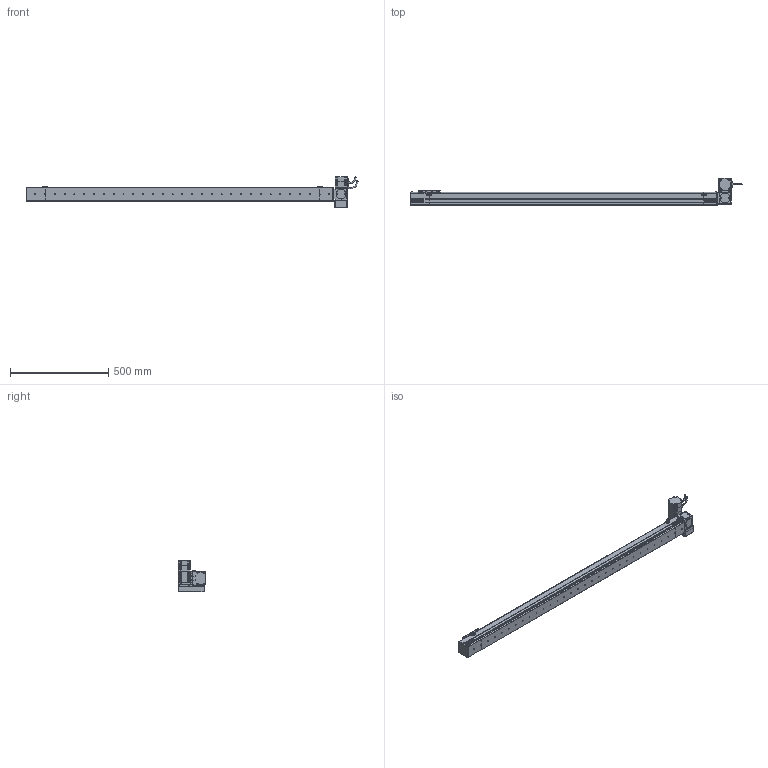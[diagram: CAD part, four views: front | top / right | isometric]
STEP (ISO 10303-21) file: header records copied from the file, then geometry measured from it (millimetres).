
FILE_DESCRIPTION (( 'STEP AP214' ), '1' );
FILE_NAME ('S07 CBN RT S1400.STEP', '2010-06-29T10:49:17', ( 'Conseil Régional Haute-Normandie' ), ( 'Conseil Régional Haute-Normandie' ), 'SwSTEP 2.0', 'SolidWorks 2010', '' );
FILE_SCHEMA (( 'AUTOMOTIVE_DESIGN' ));
Length unit declared in the file: millimetre
Products named in the file (31): Conecteur2 60BLDC_Default; support chariot_Default; chariot_Default; Chariot S07_Default; vis M5 L15_Default; vis M5 L8_Default; plaque de serrage Tail_Default; Plaque de bout Tail_Default; Couvercle Tail_Default; Corp Tail_Default; Tail S07 Tail_Default; VisM3_Default; Couvercle S07 S1400_Default; Corp S07 S1400_Default; S07 CBN RT S1400; Couvercle RT_Default; Corp RT_Default; Head RT_Default; Rondelle de Serrage RT_Default; plaque de serrage RT_Default; Plaque de bout RT_Default; 60BLDC90A-640_Default; Support Moteur RT_Default; Cache Support Moteur RT_Default; P4_Default; P3 90A_Default; P2 90A_Default; P1_Default; Conecteur 60BLDC_Default; Axe 60BLDC_Default
Assembly tree (71 placements, depth 4):
  S07 CBN RT S1400
    Corp S07 S1400_Default
      Corp S07 S1400_Default
      Couvercle S07 S1400_Default
    Tail S07 Tail_Default
      vis M5 L15_Default  x6
      plaque de serrage Tail_Default
      Corp Tail_Default
      Plaque de bout Tail_Default
      Couvercle Tail_Default
    Head RT_Default
      vis M5 L15_Default  x16
      Rondelle de Serrage RT_Default  x3
      plaque de serrage RT_Default
      Plaque de bout RT_Default
      Couvercle RT_Default
      60BLDC90A-640_Default
        VisM3_Default  x12
        P4_Default
        Axe 60BLDC_Default
        P1_Default
        Conecteur2 60BLDC_Default
        Conecteur 60BLDC_Default
        P3 90A_Default
        P2 90A_Default
      Corp RT_Default
      Support Moteur RT_Default
      Cache Support Moteur RT_Default
    Chariot S07_Default
      vis M5 L8_Default  x8
      chariot_Default
      support chariot_Default
Bounding box: 1693.2 x 141 x 162 mm (x, y, z)
Volume: 7968310 mm3; surface area: 930213.7 mm2
Topology: 108 solids, 108 shells, 3934 faces, 9674 edges, 6228 vertices
Faces by surface type: plane 2264, bspline 756, cylinder 703, torus 112, cone 95, sphere 4
Entity records: 154473 total; most frequent: CARTESIAN_POINT 79773, ORIENTED_EDGE 14868, DIRECTION 11187, EDGE_CURVE 7434, VERTEX_POINT 4913, VECTOR 4801, LINE 4801, EDGE_LOOP 3205
